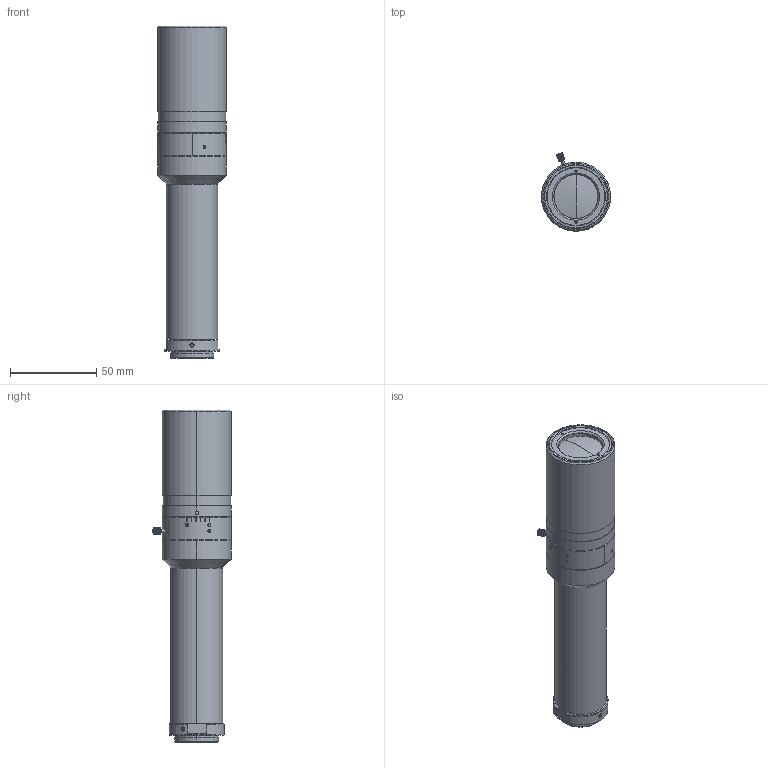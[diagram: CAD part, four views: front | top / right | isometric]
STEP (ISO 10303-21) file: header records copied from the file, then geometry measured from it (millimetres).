
FILE_DESCRIPTION (( 'STEP AP214' ), '1' );
FILE_NAME ('MML4-SR65VI-18C.STEP', '2026-02-17T07:22:30', ( '' ), ( '' ), 'SwSTEP 2.0', 'SolidWorks 2025', '' );
FILE_SCHEMA (( 'AUTOMOTIVE_DESIGN' ));
Length unit declared in the file: millimetre
Products named in the file (1): MML4-SR65VI-18C
Bounding box: 40 x 45.55 x 192.59 mm (x, y, z)
Volume: 143162.6 mm3; surface area: 32779.2 mm2
Topology: 1 solids, 1 shells, 521 faces, 1342 edges, 872 vertices
Faces by surface type: cylinder 200, plane 168, cone 79, bspline 68, sphere 4, torus 2
Entity records: 25375 total; most frequent: CARTESIAN_POINT 13465, ORIENTED_EDGE 2684, DIRECTION 2134, EDGE_CURVE 1342, VERTEX_POINT 872, AXIS2_PLACEMENT_3D 823, EDGE_LOOP 578, FACE_OUTER_BOUND 521
